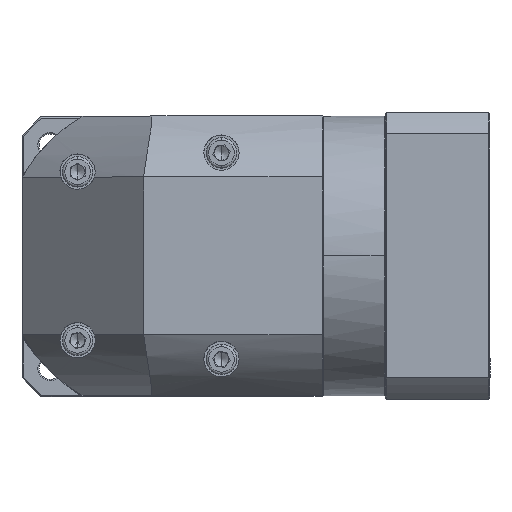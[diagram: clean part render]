
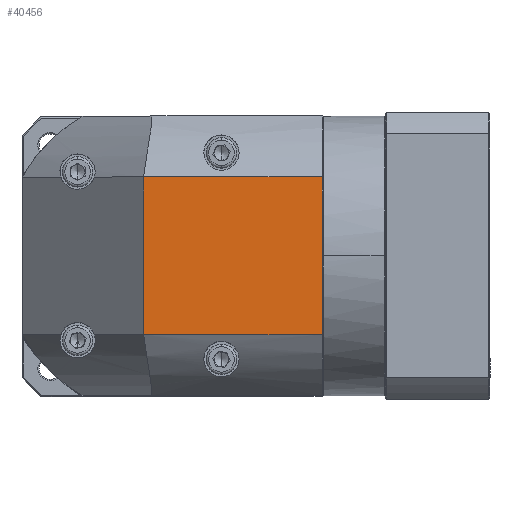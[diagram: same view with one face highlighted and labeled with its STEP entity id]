
A CAD part, top view. The second image highlights one B-rep face of the part: STEP entity #40456.
In plain terms, the highlighted planar face has unit normal (0, 0, 1).
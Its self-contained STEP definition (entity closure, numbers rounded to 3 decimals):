
#1949 = DIRECTION ( 'NONE',  ( 0., 1., 0. ) ) ;
#7721 = VECTOR ( 'NONE', #28101, 1000. ) ;
#8007 = VERTEX_POINT ( 'NONE', #29701 ) ;
#9588 = CARTESIAN_POINT ( 'NONE',  ( -3.847, 118.076, 93.924 ) ) ;
#9633 = LINE ( 'NONE', #9588, #104669 ) ;
#13122 = CARTESIAN_POINT ( 'NONE',  ( 46.153, 143.176, 93.924 ) ) ;
#22904 = CARTESIAN_POINT ( 'NONE',  ( 119.553, 53.276, 93.924 ) ) ;
#24592 = EDGE_CURVE ( 'NONE', #8007, #51234, #104342, .T. ) ;
#26342 = LINE ( 'NONE', #13122, #126236 ) ;
#28101 = DIRECTION ( 'NONE',  ( 0., -1., 0. ) ) ;
#29701 = CARTESIAN_POINT ( 'NONE',  ( 119.553, 118.076, 93.924 ) ) ;
#30458 = AXIS2_PLACEMENT_3D ( 'NONE', #96688, #106523, #75807 ) ;
#40456 = ADVANCED_FACE ( 'NONE', ( #79692 ), #63282, .F. ) ;
#48289 = EDGE_CURVE ( 'NONE', #51234, #72752, #133286, .T. ) ;
#51234 = VERTEX_POINT ( 'NONE', #22904 ) ;
#53862 = DIRECTION ( 'NONE',  ( 1., 0., 0. ) ) ;
#55253 = ORIENTED_EDGE ( 'NONE', *, *, #48289, .F. ) ;
#63282 = PLANE ( 'NONE',  #30458 ) ;
#72752 = VERTEX_POINT ( 'NONE', #104071 ) ;
#75807 = DIRECTION ( 'NONE',  ( 0., -1., 0. ) ) ;
#77241 = EDGE_CURVE ( 'NONE', #72752, #123382, #26342, .T. ) ;
#79692 = FACE_OUTER_BOUND ( 'NONE', #104121, .T. ) ;
#80740 = CARTESIAN_POINT ( 'NONE',  ( 119.553, 143.176, 93.924 ) ) ;
#80785 = ORIENTED_EDGE ( 'NONE', *, *, #24592, .F. ) ;
#88289 = VECTOR ( 'NONE', #135730, 1000. ) ;
#92974 = EDGE_CURVE ( 'NONE', #123382, #8007, #9633, .T. ) ;
#96688 = CARTESIAN_POINT ( 'NONE',  ( 53.653, 85.676, 93.924 ) ) ;
#104071 = CARTESIAN_POINT ( 'NONE',  ( 46.153, 53.276, 93.924 ) ) ;
#104121 = EDGE_LOOP ( 'NONE', ( #134126, #122053, #55253, #80785 ) ) ;
#104342 = LINE ( 'NONE', #80740, #7721 ) ;
#104669 = VECTOR ( 'NONE', #53862, 1000. ) ;
#106523 = DIRECTION ( 'NONE',  ( 0., 0., -1. ) ) ;
#112968 = CARTESIAN_POINT ( 'NONE',  ( -3.847, 53.276, 93.924 ) ) ;
#114614 = CARTESIAN_POINT ( 'NONE',  ( 46.153, 118.076, 93.924 ) ) ;
#122053 = ORIENTED_EDGE ( 'NONE', *, *, #77241, .F. ) ;
#123382 = VERTEX_POINT ( 'NONE', #114614 ) ;
#126236 = VECTOR ( 'NONE', #1949, 1000. ) ;
#133286 = LINE ( 'NONE', #112968, #88289 ) ;
#134126 = ORIENTED_EDGE ( 'NONE', *, *, #92974, .F. ) ;
#135730 = DIRECTION ( 'NONE',  ( -1., 0., 0. ) ) ;
